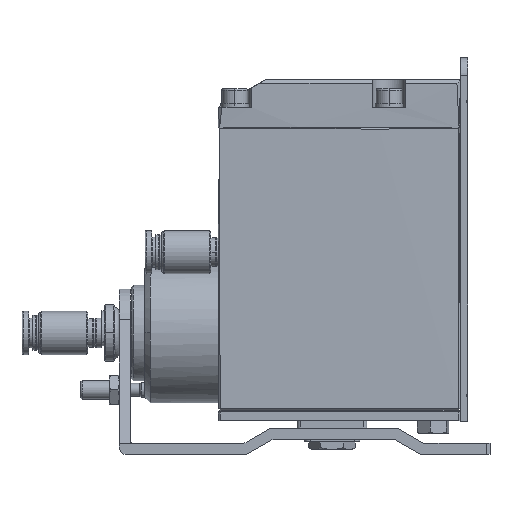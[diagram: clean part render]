
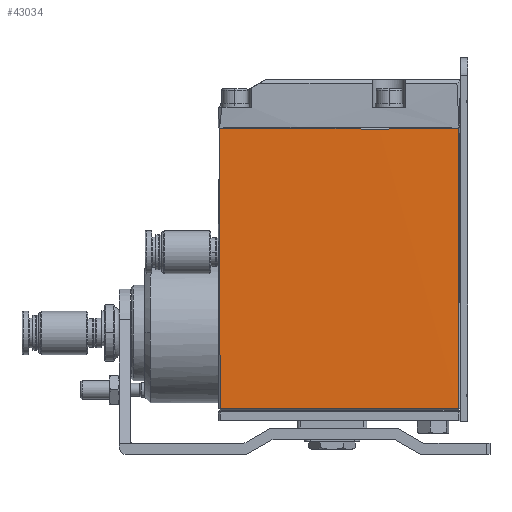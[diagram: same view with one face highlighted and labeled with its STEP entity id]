
A CAD part, left-side view. The second image highlights one B-rep face of the part: STEP entity #43034.
In plain terms, the highlighted planar face has unit normal (-1, 0, 0).
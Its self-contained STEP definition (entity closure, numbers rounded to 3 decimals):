
#538 = DIRECTION ( 'NONE',  ( 0., 0., 1. ) ) ;
#2664 = CARTESIAN_POINT ( 'NONE',  ( 0., 33., 0.5 ) ) ;
#3548 = CARTESIAN_POINT ( 'NONE',  ( 0., 33., 76.5 ) ) ;
#3714 = VECTOR ( 'NONE', #20492, 1000. ) ;
#4866 = EDGE_CURVE ( 'NONE', #34374, #52433, #40765, .T. ) ;
#13528 = AXIS2_PLACEMENT_3D ( 'NONE', #50810, #25918, #538 ) ;
#13913 = CARTESIAN_POINT ( 'NONE',  ( 0., 0.5, 0.5 ) ) ;
#14531 = EDGE_CURVE ( 'NONE', #52433, #26650, #37449, .T. ) ;
#18483 = VECTOR ( 'NONE', #54281, 1000. ) ;
#18575 = CARTESIAN_POINT ( 'NONE',  ( 0.35, 0.45, 76.8 ) ) ;
#19946 = ORIENTED_EDGE ( 'NONE', *, *, #48700, .T. ) ;
#20492 = DIRECTION ( 'NONE',  ( 0., 1., 0. ) ) ;
#22582 = FACE_OUTER_BOUND ( 'NONE', #29664, .T. ) ;
#24273 = DIRECTION ( 'NONE',  ( 0., 1., 0. ) ) ;
#24332 = ORIENTED_EDGE ( 'NONE', *, *, #4866, .T. ) ;
#25200 = LINE ( 'NONE', #2664, #34955 ) ;
#25221 = LINE ( 'NONE', #43378, #45971 ) ;
#25565 = PLANE ( 'NONE',  #13528 ) ;
#25918 = DIRECTION ( 'NONE',  ( -1., 0., 0. ) ) ;
#26650 = VERTEX_POINT ( 'NONE', #30603 ) ;
#26834 = DIRECTION ( 'NONE',  ( 0., 0., -1. ) ) ;
#29664 = EDGE_LOOP ( 'NONE', ( #41626, #24332, #51569, #19946 ) ) ;
#30603 = CARTESIAN_POINT ( 'NONE',  ( 0.45, 65.65, 76.8 ) ) ;
#32781 = VERTEX_POINT ( 'NONE', #52353 ) ;
#34374 = VERTEX_POINT ( 'NONE', #13913 ) ;
#34955 = VECTOR ( 'NONE', #24273, 1000. ) ;
#35677 = EDGE_CURVE ( 'NONE', #34374, #32781, #25200, .T. ) ;
#37449 = LINE ( 'NONE', #3548, #3714 ) ;
#40765 = LINE ( 'NONE', #54215, #18483 ) ;
#41626 = ORIENTED_EDGE ( 'NONE', *, *, #35677, .F. ) ;
#43034 = ADVANCED_FACE ( 'NONE', ( #22582 ), #25565, .T. ) ;
#43378 = CARTESIAN_POINT ( 'NONE',  ( 0., 65.5, 38.5 ) ) ;
#45971 = VECTOR ( 'NONE', #26834, 1000. ) ;
#48700 = EDGE_CURVE ( 'NONE', #26650, #32781, #25221, .T. ) ;
#50810 = CARTESIAN_POINT ( 'NONE',  ( 0., -6., -7.1 ) ) ;
#51569 = ORIENTED_EDGE ( 'NONE', *, *, #14531, .T. ) ;
#52353 = CARTESIAN_POINT ( 'NONE',  ( 0., 65.5, 0.5 ) ) ;
#52433 = VERTEX_POINT ( 'NONE', #18575 ) ;
#54215 = CARTESIAN_POINT ( 'NONE',  ( 0., 0.5, 38.5 ) ) ;
#54281 = DIRECTION ( 'NONE',  ( 0., 0., 1. ) ) ;
